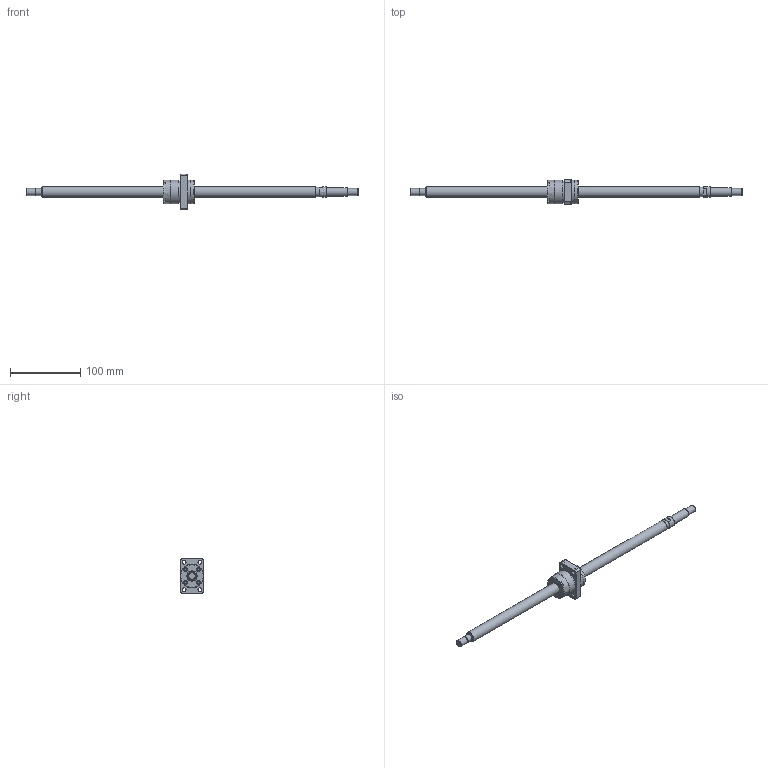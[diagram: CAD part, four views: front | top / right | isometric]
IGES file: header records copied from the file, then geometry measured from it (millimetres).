
Start section: Data from Parasolid IGES Translator 26.0.171, Copyright(c) 2006 Siemens PLM Software. All Rights Reserved.
Global section: file name: BNK1510-5.6G0+471LC5Y(216.50).igs; native system: By Siemens PLM Incorporated; preprocessor: XPlus GENERIC/IGES 26.0.171; author: Noname; organization: Noname; date: 20240709.092246; units: millimetre
Bounding box: 471 x 34 x 50 mm (x, y, z)
Surface area: 33484 mm2 (no closed solid volume)
Topology: 0 solids, 0 shells, 140 faces, 649 edges, 590 vertices
Faces by surface type: extrusion 76, revolution 64
